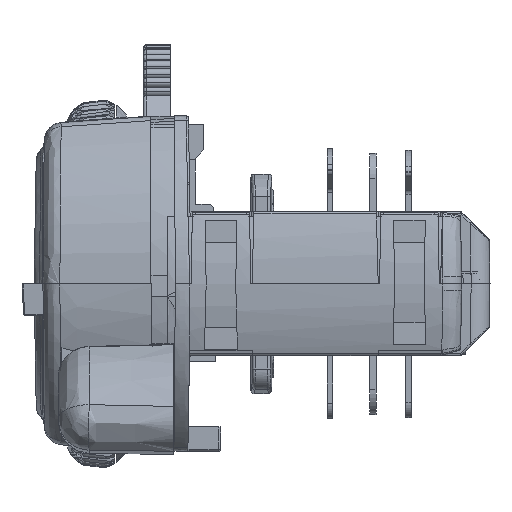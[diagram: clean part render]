
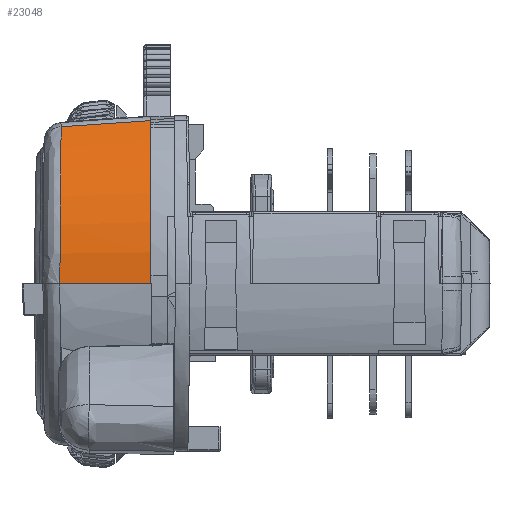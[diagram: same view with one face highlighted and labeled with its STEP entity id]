
A CAD part, left-side view. The second image highlights one B-rep face of the part: STEP entity #23048.
In plain terms, the highlighted toroidal (fillet/blend) face has major radius 100 mm and minor radius 120 mm.
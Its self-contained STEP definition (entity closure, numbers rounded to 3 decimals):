
#431 = CARTESIAN_POINT ( 'NONE',  ( -108.983, 18.131, 220.3 ) ) ;
#769 = CARTESIAN_POINT ( 'NONE',  ( -109.173, 9.546, 220.883 ) ) ;
#1930 = CARTESIAN_POINT ( 'NONE',  ( -111.385, 9.546, 218.892 ) ) ;
#2445 = CARTESIAN_POINT ( 'NONE',  ( -112.862, 18.165, 216.078 ) ) ;
#5898 = EDGE_LOOP ( 'NONE', ( #18201, #57955, #9624, #33452 ) ) ;
#6570 = CARTESIAN_POINT ( 'NONE',  ( -109.173, 9.546, 220.883 ) ) ;
#7095 = CARTESIAN_POINT ( 'NONE',  ( -111.524, 18.152, 217.786 ) ) ;
#7930 = CARTESIAN_POINT ( 'NONE',  ( -116.341, 15.358, 205.336 ) ) ;
#9551 = CARTESIAN_POINT ( 'NONE',  ( -116.041, 18.252, 205.336 ) ) ;
#9624 = ORIENTED_EDGE ( 'NONE', *, *, #18103, .F. ) ;
#11051 = CARTESIAN_POINT ( 'NONE',  ( -116.625, 9.546, 206.822 ) ) ;
#11784 = CARTESIAN_POINT ( 'NONE',  ( -110.809, 18.145, 218.593 ) ) ;
#12621 = CARTESIAN_POINT ( 'NONE',  ( -116.041, 18.252, 205.336 ) ) ;
#16531 = CARTESIAN_POINT ( 'NONE',  ( -109.535, 18.135, 219.846 ) ) ;
#16816 = B_SPLINE_CURVE_WITH_KNOTS ( 'NONE', 3,
 ( #12621, #7930, #26507, #45205 ),
 .UNSPECIFIED., .F., .F.,
 ( 4, 4 ),
 ( 0., 1. ),
 .UNSPECIFIED. ) ;
#18103 = EDGE_CURVE ( 'NONE', #36887, #45890, #44045, .T. ) ;
#18201 = ORIENTED_EDGE ( 'NONE', *, *, #24989, .T. ) ;
#19324 = CARTESIAN_POINT ( 'NONE',  ( -109.081, 15.287, 220.598 ) ) ;
#20484 = CARTESIAN_POINT ( 'NONE',  ( -116.458, 9.546, 208.307 ) ) ;
#21023 = CARTESIAN_POINT ( 'NONE',  ( -115.442, 18.213, 210.183 ) ) ;
#23048 = ADVANCED_FACE ( 'NONE', ( #44178 ), #55176, .T. ) ;
#24989 = EDGE_CURVE ( 'NONE', #56375, #53003, #16816, .T. ) ;
#25189 = CARTESIAN_POINT ( 'NONE',  ( -115.308, 9.546, 212.617 ) ) ;
#25716 = CARTESIAN_POINT ( 'NONE',  ( -114.786, 18.196, 212.245 ) ) ;
#26219 = DIRECTION ( 'NONE',  ( 0., -1., 0. ) ) ;
#26507 = CARTESIAN_POINT ( 'NONE',  ( -116.536, 12.454, 205.336 ) ) ;
#29294 = CARTESIAN_POINT ( 'NONE',  ( -116.625, 9.546, 205.336 ) ) ;
#29858 = CARTESIAN_POINT ( 'NONE',  ( -113.231, 9.546, 216.564 ) ) ;
#30194 = CARTESIAN_POINT ( 'NONE',  ( -116.042, 18.24, 206.744 ) ) ;
#30411 = CARTESIAN_POINT ( 'NONE',  ( -113.607, 18.175, 214.858 ) ) ;
#30922 = CARTESIAN_POINT ( 'NONE',  ( -96.682, 5.866, 205.336 ) ) ;
#31377 = CARTESIAN_POINT ( 'NONE',  ( -109.173, 9.546, 220.883 ) ) ;
#31724 =( BOUNDED_CURVE ( )  B_SPLINE_CURVE ( 3, ( #44194, #30194, #48922, #21023, #53637, #25716, #58301, #30411, #2445, #35080, #7095, #39718, #11784, #44396, #16531, #49129 ),
 .UNSPECIFIED., .F., .T. ) 
 B_SPLINE_CURVE_WITH_KNOTS ( ( 4, 2, 2, 2, 2, 2, 2, 4 ),
 ( 0., 0.245, 0.371, 0.496, 0.748, 0.811, 0.874, 1. ),
 .UNSPECIFIED. ) 
 CURVE ( )  GEOMETRIC_REPRESENTATION_ITEM ( )  RATIONAL_B_SPLINE_CURVE ( ( 1., 1., 1., 1., 1., 1., 1., 1., 1., 1., 1., 1., 1., 1., 1., 1. ) ) 
 REPRESENTATION_ITEM ( '' )  );
#33452 = ORIENTED_EDGE ( 'NONE', *, *, #40434, .F. ) ;
#34545 = CARTESIAN_POINT ( 'NONE',  ( -110.331, 9.546, 219.952 ) ) ;
#35080 = CARTESIAN_POINT ( 'NONE',  ( -111.754, 18.154, 217.506 ) ) ;
#36646 = AXIS2_PLACEMENT_3D ( 'NONE', #30922, #26219, #49458 ) ;
#36887 = VERTEX_POINT ( 'NONE', #431 ) ;
#39718 = CARTESIAN_POINT ( 'NONE',  ( -111.052, 18.147, 218.329 ) ) ;
#40434 = EDGE_CURVE ( 'NONE', #56375, #36887, #31724, .T. ) ;
#43645 = CARTESIAN_POINT ( 'NONE',  ( -116.625, 9.546, 205.336 ) ) ;
#44045 = B_SPLINE_CURVE_WITH_KNOTS ( 'NONE', 3,
 ( #56604, #19324, #47193, #769 ),
 .UNSPECIFIED., .F., .F.,
 ( 4, 4 ),
 ( 0., 1. ),
 .UNSPECIFIED. ) ;
#44178 = FACE_OUTER_BOUND ( 'NONE', #5898, .T. ) ;
#44194 = CARTESIAN_POINT ( 'NONE',  ( -116.041, 18.252, 205.336 ) ) ;
#44396 = CARTESIAN_POINT ( 'NONE',  ( -110.06, 18.139, 219.362 ) ) ;
#45205 = CARTESIAN_POINT ( 'NONE',  ( -116.625, 9.546, 205.336 ) ) ;
#45890 = VERTEX_POINT ( 'NONE', #31377 ) ;
#47193 = CARTESIAN_POINT ( 'NONE',  ( -109.144, 12.415, 220.793 ) ) ;
#48407 = B_SPLINE_CURVE_WITH_KNOTS ( 'NONE', 3,
 ( #43645, #11051, #20484, #53100, #25189, #57783, #29858, #1930, #34545, #6570 ),
 .UNSPECIFIED., .F., .F.,
 ( 4, 2, 2, 2, 4 ),
 ( 0., 0.25, 0.5, 0.75, 1. ),
 .UNSPECIFIED. ) ;
#48922 = CARTESIAN_POINT ( 'NONE',  ( -115.891, 18.229, 208.127 ) ) ;
#49129 = CARTESIAN_POINT ( 'NONE',  ( -108.983, 18.131, 220.3 ) ) ;
#49458 = DIRECTION ( 'NONE',  ( 1., 0., 0. ) ) ;
#53003 = VERTEX_POINT ( 'NONE', #29294 ) ;
#53100 = CARTESIAN_POINT ( 'NONE',  ( -115.8, 9.546, 211.205 ) ) ;
#53637 = CARTESIAN_POINT ( 'NONE',  ( -115.25, 18.207, 210.875 ) ) ;
#54436 = EDGE_CURVE ( 'NONE', #53003, #45890, #48407, .T. ) ;
#55176 = TOROIDAL_SURFACE ( 'NONE', #36646, -100., 120. ) ;
#56375 = VERTEX_POINT ( 'NONE', #9551 ) ;
#56604 = CARTESIAN_POINT ( 'NONE',  ( -108.983, 18.131, 220.3 ) ) ;
#57783 = CARTESIAN_POINT ( 'NONE',  ( -114.024, 9.546, 215.296 ) ) ;
#57955 = ORIENTED_EDGE ( 'NONE', *, *, #54436, .T. ) ;
#58301 = CARTESIAN_POINT ( 'NONE',  ( -114.517, 18.191, 212.914 ) ) ;
